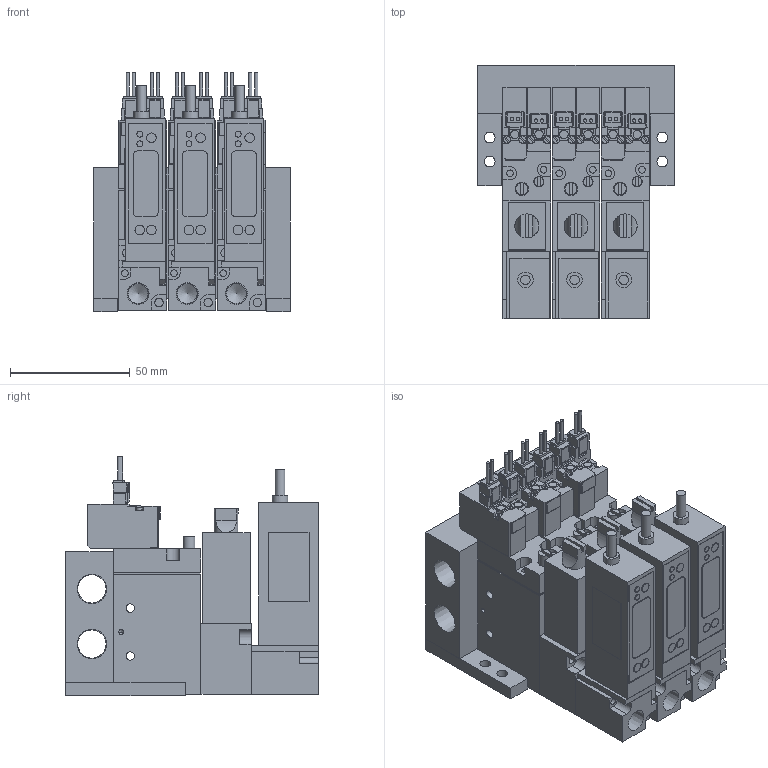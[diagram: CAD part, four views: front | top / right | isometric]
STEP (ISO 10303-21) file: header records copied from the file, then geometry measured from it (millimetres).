
FILE_DESCRIPTION(('STEP AP203'),'1');
FILE_NAME('BMPV32M2NV(R)G25AL303.stp','2025-06-17T00:46:02',(' '),(' '),'Spatial InterOp 3D',' ',' ');
FILE_SCHEMA(('CONFIG_CONTROL_DESIGN'));
Length unit declared in the file: millimetre
Products named in the file (40): BMPV32M2NV(R)G25AL303; Pressure sensor VGL; ___-3(Rc); Filter Assy; __; _____; ___ ___; MB03; MB BRACKET; ___; upper plate-A; ______; ____; VACUUM VALVE FUNCTION MPV42-A; UV280-4E
Assembly tree (39 placements, depth 2):
  BMPV32M2NV(R)G25AL303
    Pressure sensor VGL
    ___-3(Rc)
    Filter Assy
    __
    _____
    ___ ___
    Pressure sensor VGL
    ___-3(Rc)
    Filter Assy
    __
    _____
    ___ ___
    MB03
    MB BRACKET
    MB BRACKET
    Pressure sensor VGL
    ___-3(Rc)
    Filter Assy
    __
    _____
    ___ ___
    ___
    upper plate-A
    ______
    ____
    VACUUM VALVE FUNCTION MPV42-A
    ___
    upper plate-A
    ______
    ____
    VACUUM VALVE FUNCTION MPV42-A
    ___
    upper plate-A
    ______
    ____
    VACUUM VALVE FUNCTION MPV42-A
    UV280-4E
    UV280-4E
    UV280-4E
Bounding box: 82 x 105.5 x 99.75 mm (x, y, z)
Volume: 409227.9 mm3; surface area: 134528.6 mm2
Topology: 39 solids, 39 shells, 1229 faces, 3178 edges, 2110 vertices
Faces by surface type: plane 972, cylinder 228, cone 29
Full cylindrical faces by diameter (mm): 1.4 x12, 1.8 x6, 2 x6, 2.5 x16, 2.8 x12, 3 x12, 3.5 x34, 4 x15, 4.2 x3, 4.5 x4, 5 x3, 5.5 x3, 6.5 x9, 8.2 x3, 8.759 x3, 11.776 x2
Entity records: 38157 total; most frequent: CARTESIAN_POINT 6486, DIRECTION 6015, ORIENTED_EDGE 5866, EDGE_CURVE 2933, LINE 2365, VECTOR 2365, VERTEX_POINT 2062, AXIS2_PLACEMENT_3D 1825
